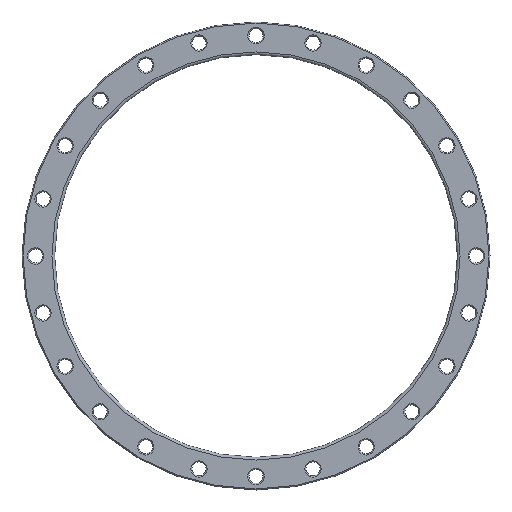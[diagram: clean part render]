
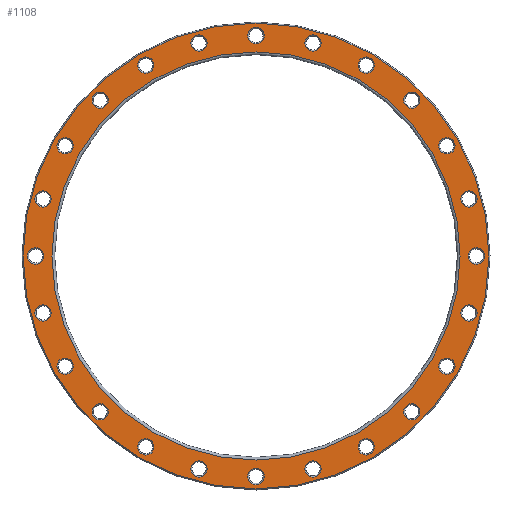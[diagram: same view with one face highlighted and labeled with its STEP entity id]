
A CAD part, front view. The second image highlights one B-rep face of the part: STEP entity #1108.
In plain terms, the highlighted planar face has unit normal (0, -1, 0).
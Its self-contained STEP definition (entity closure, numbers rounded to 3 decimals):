
#23=PLANE('',#1300);
#242=ORIENTED_EDGE('',*,*,#381,.T.);
#243=ORIENTED_EDGE('',*,*,#382,.T.);
#244=ORIENTED_EDGE('',*,*,#284,.T.);
#245=ORIENTED_EDGE('',*,*,#288,.T.);
#246=ORIENTED_EDGE('',*,*,#292,.T.);
#247=ORIENTED_EDGE('',*,*,#296,.T.);
#248=ORIENTED_EDGE('',*,*,#300,.T.);
#249=ORIENTED_EDGE('',*,*,#304,.T.);
#250=ORIENTED_EDGE('',*,*,#308,.T.);
#251=ORIENTED_EDGE('',*,*,#312,.T.);
#252=ORIENTED_EDGE('',*,*,#316,.T.);
#253=ORIENTED_EDGE('',*,*,#320,.T.);
#254=ORIENTED_EDGE('',*,*,#324,.T.);
#255=ORIENTED_EDGE('',*,*,#328,.T.);
#256=ORIENTED_EDGE('',*,*,#332,.T.);
#257=ORIENTED_EDGE('',*,*,#336,.T.);
#258=ORIENTED_EDGE('',*,*,#340,.T.);
#259=ORIENTED_EDGE('',*,*,#344,.T.);
#260=ORIENTED_EDGE('',*,*,#348,.T.);
#261=ORIENTED_EDGE('',*,*,#352,.T.);
#262=ORIENTED_EDGE('',*,*,#356,.T.);
#263=ORIENTED_EDGE('',*,*,#360,.T.);
#264=ORIENTED_EDGE('',*,*,#364,.T.);
#265=ORIENTED_EDGE('',*,*,#368,.T.);
#266=ORIENTED_EDGE('',*,*,#372,.T.);
#267=ORIENTED_EDGE('',*,*,#383,.T.);
#284=EDGE_CURVE('',#388,#388,#492,.T.);
#288=EDGE_CURVE('',#392,#392,#496,.T.);
#292=EDGE_CURVE('',#396,#396,#500,.T.);
#296=EDGE_CURVE('',#400,#400,#504,.T.);
#300=EDGE_CURVE('',#404,#404,#508,.T.);
#304=EDGE_CURVE('',#408,#408,#512,.T.);
#308=EDGE_CURVE('',#412,#412,#516,.T.);
#312=EDGE_CURVE('',#416,#416,#520,.T.);
#316=EDGE_CURVE('',#420,#420,#524,.T.);
#320=EDGE_CURVE('',#424,#424,#528,.T.);
#324=EDGE_CURVE('',#428,#428,#532,.T.);
#328=EDGE_CURVE('',#432,#432,#536,.T.);
#332=EDGE_CURVE('',#436,#436,#540,.T.);
#336=EDGE_CURVE('',#440,#440,#544,.T.);
#340=EDGE_CURVE('',#444,#444,#548,.T.);
#344=EDGE_CURVE('',#448,#448,#552,.T.);
#348=EDGE_CURVE('',#452,#452,#556,.T.);
#352=EDGE_CURVE('',#456,#456,#560,.T.);
#356=EDGE_CURVE('',#460,#460,#564,.T.);
#360=EDGE_CURVE('',#464,#464,#568,.T.);
#364=EDGE_CURVE('',#468,#468,#572,.T.);
#368=EDGE_CURVE('',#472,#472,#576,.T.);
#372=EDGE_CURVE('',#476,#476,#580,.T.);
#381=EDGE_CURVE('',#485,#485,#589,.F.);
#382=EDGE_CURVE('',#486,#486,#590,.T.);
#383=EDGE_CURVE('',#487,#487,#591,.T.);
#388=VERTEX_POINT('',#1691);
#392=VERTEX_POINT('',#1702);
#396=VERTEX_POINT('',#1713);
#400=VERTEX_POINT('',#1724);
#404=VERTEX_POINT('',#1735);
#408=VERTEX_POINT('',#1746);
#412=VERTEX_POINT('',#1757);
#416=VERTEX_POINT('',#1768);
#420=VERTEX_POINT('',#1779);
#424=VERTEX_POINT('',#1790);
#428=VERTEX_POINT('',#1801);
#432=VERTEX_POINT('',#1812);
#436=VERTEX_POINT('',#1823);
#440=VERTEX_POINT('',#1834);
#444=VERTEX_POINT('',#1845);
#448=VERTEX_POINT('',#1856);
#452=VERTEX_POINT('',#1867);
#456=VERTEX_POINT('',#1878);
#460=VERTEX_POINT('',#1889);
#464=VERTEX_POINT('',#1900);
#468=VERTEX_POINT('',#1911);
#472=VERTEX_POINT('',#1922);
#476=VERTEX_POINT('',#1933);
#485=VERTEX_POINT('',#1956);
#486=VERTEX_POINT('',#1958);
#487=VERTEX_POINT('',#1960);
#492=CIRCLE('',#1133,15.);
#496=CIRCLE('',#1140,15.);
#500=CIRCLE('',#1147,15.);
#504=CIRCLE('',#1154,15.);
#508=CIRCLE('',#1161,15.);
#512=CIRCLE('',#1168,15.);
#516=CIRCLE('',#1175,15.);
#520=CIRCLE('',#1182,15.);
#524=CIRCLE('',#1189,15.);
#528=CIRCLE('',#1196,15.);
#532=CIRCLE('',#1203,15.);
#536=CIRCLE('',#1210,15.);
#540=CIRCLE('',#1217,15.);
#544=CIRCLE('',#1224,15.);
#548=CIRCLE('',#1231,15.);
#552=CIRCLE('',#1238,15.);
#556=CIRCLE('',#1245,15.);
#560=CIRCLE('',#1252,15.);
#564=CIRCLE('',#1259,15.);
#568=CIRCLE('',#1266,15.);
#572=CIRCLE('',#1273,15.);
#576=CIRCLE('',#1280,15.);
#580=CIRCLE('',#1287,15.);
#589=CIRCLE('',#1301,428.);
#590=CIRCLE('',#1302,375.);
#591=CIRCLE('',#1303,15.);
#762=EDGE_LOOP('',(#242));
#763=EDGE_LOOP('',(#243));
#764=EDGE_LOOP('',(#244));
#765=EDGE_LOOP('',(#245));
#766=EDGE_LOOP('',(#246));
#767=EDGE_LOOP('',(#247));
#768=EDGE_LOOP('',(#248));
#769=EDGE_LOOP('',(#249));
#770=EDGE_LOOP('',(#250));
#771=EDGE_LOOP('',(#251));
#772=EDGE_LOOP('',(#252));
#773=EDGE_LOOP('',(#253));
#774=EDGE_LOOP('',(#254));
#775=EDGE_LOOP('',(#255));
#776=EDGE_LOOP('',(#256));
#777=EDGE_LOOP('',(#257));
#778=EDGE_LOOP('',(#258));
#779=EDGE_LOOP('',(#259));
#780=EDGE_LOOP('',(#260));
#781=EDGE_LOOP('',(#261));
#782=EDGE_LOOP('',(#262));
#783=EDGE_LOOP('',(#263));
#784=EDGE_LOOP('',(#264));
#785=EDGE_LOOP('',(#265));
#786=EDGE_LOOP('',(#266));
#787=EDGE_LOOP('',(#267));
#970=FACE_BOUND('',#762,.T.);
#971=FACE_BOUND('',#763,.T.);
#972=FACE_BOUND('',#764,.T.);
#973=FACE_BOUND('',#765,.T.);
#974=FACE_BOUND('',#766,.T.);
#975=FACE_BOUND('',#767,.T.);
#976=FACE_BOUND('',#768,.T.);
#977=FACE_BOUND('',#769,.T.);
#978=FACE_BOUND('',#770,.T.);
#979=FACE_BOUND('',#771,.T.);
#980=FACE_BOUND('',#772,.T.);
#981=FACE_BOUND('',#773,.T.);
#982=FACE_BOUND('',#774,.T.);
#983=FACE_BOUND('',#775,.T.);
#984=FACE_BOUND('',#776,.T.);
#985=FACE_BOUND('',#777,.T.);
#986=FACE_BOUND('',#778,.T.);
#987=FACE_BOUND('',#779,.T.);
#988=FACE_BOUND('',#780,.T.);
#989=FACE_BOUND('',#781,.T.);
#990=FACE_BOUND('',#782,.T.);
#991=FACE_BOUND('',#783,.T.);
#992=FACE_BOUND('',#784,.T.);
#993=FACE_BOUND('',#785,.T.);
#994=FACE_BOUND('',#786,.T.);
#995=FACE_BOUND('',#787,.T.);
#1108=ADVANCED_FACE('',(#970,#971,#972,#973,#974,#975,#976,#977,#978,#979,
#980,#981,#982,#983,#984,#985,#986,#987,#988,#989,#990,#991,#992,#993,#994,
#995),#23,.F.);
#1133=AXIS2_PLACEMENT_3D('',#1690,#1323,#1324);
#1140=AXIS2_PLACEMENT_3D('',#1701,#1337,#1338);
#1147=AXIS2_PLACEMENT_3D('',#1712,#1351,#1352);
#1154=AXIS2_PLACEMENT_3D('',#1723,#1365,#1366);
#1161=AXIS2_PLACEMENT_3D('',#1734,#1379,#1380);
#1168=AXIS2_PLACEMENT_3D('',#1745,#1393,#1394);
#1175=AXIS2_PLACEMENT_3D('',#1756,#1407,#1408);
#1182=AXIS2_PLACEMENT_3D('',#1767,#1421,#1422);
#1189=AXIS2_PLACEMENT_3D('',#1778,#1435,#1436);
#1196=AXIS2_PLACEMENT_3D('',#1789,#1449,#1450);
#1203=AXIS2_PLACEMENT_3D('',#1800,#1463,#1464);
#1210=AXIS2_PLACEMENT_3D('',#1811,#1477,#1478);
#1217=AXIS2_PLACEMENT_3D('',#1822,#1491,#1492);
#1224=AXIS2_PLACEMENT_3D('',#1833,#1505,#1506);
#1231=AXIS2_PLACEMENT_3D('',#1844,#1519,#1520);
#1238=AXIS2_PLACEMENT_3D('',#1855,#1533,#1534);
#1245=AXIS2_PLACEMENT_3D('',#1866,#1547,#1548);
#1252=AXIS2_PLACEMENT_3D('',#1877,#1561,#1562);
#1259=AXIS2_PLACEMENT_3D('',#1888,#1575,#1576);
#1266=AXIS2_PLACEMENT_3D('',#1899,#1589,#1590);
#1273=AXIS2_PLACEMENT_3D('',#1910,#1603,#1604);
#1280=AXIS2_PLACEMENT_3D('',#1921,#1617,#1618);
#1287=AXIS2_PLACEMENT_3D('',#1932,#1631,#1632);
#1300=AXIS2_PLACEMENT_3D('',#1954,#1657,#1658);
#1301=AXIS2_PLACEMENT_3D('',#1955,#1659,#1660);
#1302=AXIS2_PLACEMENT_3D('',#1957,#1661,#1662);
#1303=AXIS2_PLACEMENT_3D('',#1959,#1663,#1664);
#1323=DIRECTION('',(0.,1.,0.));
#1324=DIRECTION('',(0.966,0.,0.259));
#1337=DIRECTION('',(0.,1.,0.));
#1338=DIRECTION('',(0.866,0.,0.5));
#1351=DIRECTION('',(0.,1.,0.));
#1352=DIRECTION('',(0.707,0.,0.707));
#1365=DIRECTION('',(0.,1.,0.));
#1366=DIRECTION('',(0.5,0.,0.866));
#1379=DIRECTION('',(0.,1.,0.));
#1380=DIRECTION('',(0.259,0.,0.966));
#1393=DIRECTION('',(0.,1.,0.));
#1394=DIRECTION('',(0.,0.,1.));
#1407=DIRECTION('',(0.,1.,0.));
#1408=DIRECTION('',(-0.259,0.,0.966));
#1421=DIRECTION('',(0.,1.,0.));
#1422=DIRECTION('',(-0.5,0.,0.866));
#1435=DIRECTION('',(0.,1.,0.));
#1436=DIRECTION('',(-0.707,0.,0.707));
#1449=DIRECTION('',(0.,1.,0.));
#1450=DIRECTION('',(-0.866,0.,0.5));
#1463=DIRECTION('',(0.,1.,0.));
#1464=DIRECTION('',(-0.966,0.,0.259));
#1477=DIRECTION('',(0.,1.,0.));
#1478=DIRECTION('',(-1.,0.,0.));
#1491=DIRECTION('',(0.,1.,0.));
#1492=DIRECTION('',(-0.966,0.,-0.259));
#1505=DIRECTION('',(0.,1.,0.));
#1506=DIRECTION('',(-0.866,0.,-0.5));
#1519=DIRECTION('',(0.,1.,0.));
#1520=DIRECTION('',(-0.707,0.,-0.707));
#1533=DIRECTION('',(0.,1.,0.));
#1534=DIRECTION('',(-0.5,0.,-0.866));
#1547=DIRECTION('',(0.,1.,0.));
#1548=DIRECTION('',(-0.259,0.,-0.966));
#1561=DIRECTION('',(0.,1.,0.));
#1562=DIRECTION('',(0.,0.,-1.));
#1575=DIRECTION('',(0.,1.,0.));
#1576=DIRECTION('',(0.259,0.,-0.966));
#1589=DIRECTION('',(0.,1.,0.));
#1590=DIRECTION('',(0.5,0.,-0.866));
#1603=DIRECTION('',(0.,1.,0.));
#1604=DIRECTION('',(0.707,0.,-0.707));
#1617=DIRECTION('',(0.,1.,0.));
#1618=DIRECTION('',(0.866,0.,-0.5));
#1631=DIRECTION('',(0.,1.,0.));
#1632=DIRECTION('',(0.966,0.,-0.259));
#1657=DIRECTION('',(0.,1.,0.));
#1658=DIRECTION('',(0.,0.,1.));
#1659=DIRECTION('',(0.,1.,0.));
#1660=DIRECTION('',(0.,0.,1.));
#1661=DIRECTION('',(0.,1.,0.));
#1662=DIRECTION('',(0.,0.,1.));
#1663=DIRECTION('',(0.,1.,0.));
#1664=DIRECTION('',(1.,0.,0.));
#1690=CARTESIAN_POINT('',(-104.822,0.,391.2));
#1691=CARTESIAN_POINT('',(-90.333,0.,395.082));
#1701=CARTESIAN_POINT('',(-202.5,0.,350.74));
#1702=CARTESIAN_POINT('',(-189.51,0.,358.24));
#1712=CARTESIAN_POINT('',(-286.378,0.,286.378));
#1713=CARTESIAN_POINT('',(-275.772,0.,296.985));
#1723=CARTESIAN_POINT('',(-350.74,0.,202.5));
#1724=CARTESIAN_POINT('',(-343.24,0.,215.49));
#1734=CARTESIAN_POINT('',(-391.2,0.,104.822));
#1735=CARTESIAN_POINT('',(-387.318,0.,119.311));
#1745=CARTESIAN_POINT('',(-405.,0.,0.));
#1746=CARTESIAN_POINT('',(-405.,0.,15.));
#1756=CARTESIAN_POINT('',(-391.2,0.,-104.822));
#1757=CARTESIAN_POINT('',(-395.082,0.,-90.333));
#1767=CARTESIAN_POINT('',(-350.74,0.,-202.5));
#1768=CARTESIAN_POINT('',(-358.24,0.,-189.51));
#1778=CARTESIAN_POINT('',(-286.378,0.,-286.378));
#1779=CARTESIAN_POINT('',(-296.985,0.,-275.772));
#1789=CARTESIAN_POINT('',(-202.5,0.,-350.74));
#1790=CARTESIAN_POINT('',(-215.49,0.,-343.24));
#1800=CARTESIAN_POINT('',(-104.822,0.,-391.2));
#1801=CARTESIAN_POINT('',(-119.311,0.,-387.318));
#1811=CARTESIAN_POINT('',(0.,0.,-405.));
#1812=CARTESIAN_POINT('',(-15.,0.,-405.));
#1822=CARTESIAN_POINT('',(104.822,0.,-391.2));
#1823=CARTESIAN_POINT('',(90.333,0.,-395.082));
#1833=CARTESIAN_POINT('',(202.5,0.,-350.74));
#1834=CARTESIAN_POINT('',(189.51,0.,-358.24));
#1844=CARTESIAN_POINT('',(286.378,0.,-286.378));
#1845=CARTESIAN_POINT('',(275.772,0.,-296.985));
#1855=CARTESIAN_POINT('',(350.74,0.,-202.5));
#1856=CARTESIAN_POINT('',(343.24,0.,-215.49));
#1866=CARTESIAN_POINT('',(391.2,0.,-104.822));
#1867=CARTESIAN_POINT('',(387.318,0.,-119.311));
#1877=CARTESIAN_POINT('',(405.,0.,0.));
#1878=CARTESIAN_POINT('',(405.,0.,-15.));
#1888=CARTESIAN_POINT('',(391.2,0.,104.822));
#1889=CARTESIAN_POINT('',(395.082,0.,90.333));
#1899=CARTESIAN_POINT('',(350.74,0.,202.5));
#1900=CARTESIAN_POINT('',(358.24,0.,189.51));
#1910=CARTESIAN_POINT('',(286.378,0.,286.378));
#1911=CARTESIAN_POINT('',(296.985,0.,275.772));
#1921=CARTESIAN_POINT('',(202.5,0.,350.74));
#1922=CARTESIAN_POINT('',(215.49,0.,343.24));
#1932=CARTESIAN_POINT('',(104.822,0.,391.2));
#1933=CARTESIAN_POINT('',(119.311,0.,387.318));
#1954=CARTESIAN_POINT('',(0.,0.,0.));
#1955=CARTESIAN_POINT('',(0.,0.,0.));
#1956=CARTESIAN_POINT('',(0.,0.,428.));
#1957=CARTESIAN_POINT('',(0.,0.,0.));
#1958=CARTESIAN_POINT('',(0.,0.,375.));
#1959=CARTESIAN_POINT('',(0.,0.,405.));
#1960=CARTESIAN_POINT('',(15.,0.,405.));
